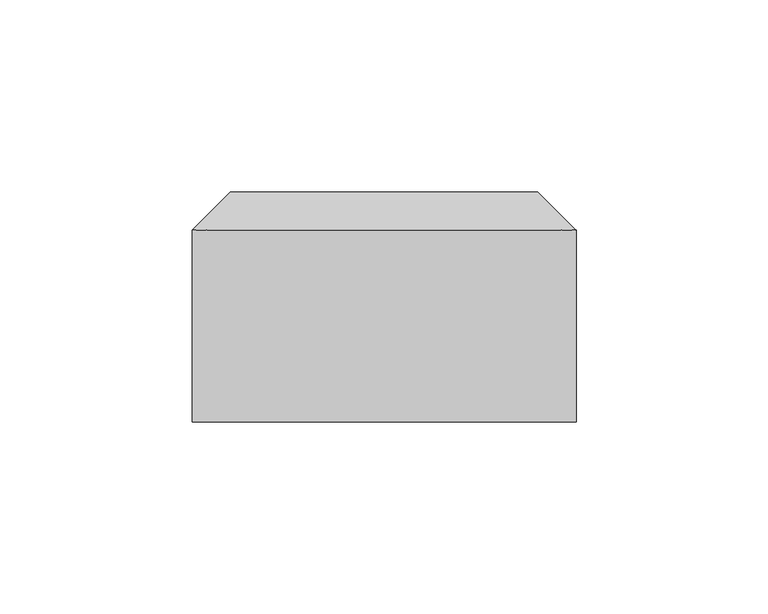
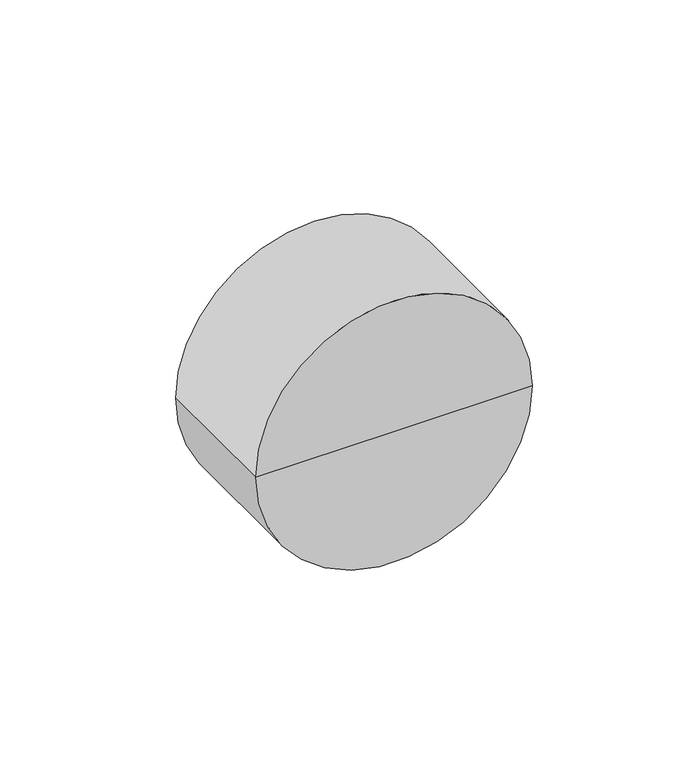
"""IFC4 building model written with IfcOpenShell, lengths in millimetres: alarm geometry, AI_Incendie_Alarme incendie : Diffuseur sonore."""

from ifc_helpers import new_model, si_unit, frame, origin, place, context, project, spatial, polyline, circle_curve, source, transform, mapped, element, save
from ifc_brep_helpers import plane_surface, cylinder_surface, revolved_surface, advanced_brep


def alarm_ff25f4bb(model_context):
    return source(origin(), model_context, "Body", "AdvancedBrep", [
        advanced_brep(
        [(0.0, 0.0, 0.0), (-50.0, 0.0, 0.0), (50.0, 0.0, 0.0), (40.0, 60.0, 0.0), (-40.0, 60.0, 0.0), (0.0, 60.0, 0.0), (50.0, 50.0, 0.0), (-50.0, 50.0, 0.0)],
        [
            (0, 1),
            (1, 2, circle_curve(frame((0.0, 0.0, 0.0), z_axis=(0.0, -1.0, 0.0), x_axis=(-1.0, 0.0, 0.0)), 50.0)),
            (2, 0),
            (2, 1, circle_curve(frame((0.0, 0.0, 0.0), z_axis=(0.0, -1.0, 0.0), x_axis=(-1.0, 0.0, 0.0)), 50.0)),
            (3, 4, circle_curve(frame((0.0, 60.0, 0.0), z_axis=(0.0, 1.0, 0.0), x_axis=(-1.0, 0.0, 0.0)), 40.0)),
            (4, 5),
            (5, 3),
            (4, 3, circle_curve(frame((0.0, 60.0, 0.0), z_axis=(0.0, 1.0, 0.0), x_axis=(-1.0, 0.0, 0.0)), 40.0)),
            (6, 7, circle_curve(frame((0.0, 50.0, 0.0), z_axis=(0.0, 1.0, 0.0), x_axis=(-1.0, 0.0, 0.0)), 50.0)),
            (7, 4),
            (3, 6),
            (7, 6, circle_curve(frame((0.0, 50.0, 0.0), z_axis=(0.0, 1.0, 0.0), x_axis=(-1.0, 0.0, 0.0)), 50.0)),
            (1, 7),
            (6, 2),
        ],
        [
            plane_surface(frame((0.0, 0.0, 0.0), z_axis=(0.0, -1.0, 0.0), x_axis=(-1.0, 0.0, 0.0))),
            plane_surface(frame((0.0, 60.0, 0.0), z_axis=(0.0, 1.0, 0.0), x_axis=(-1.0, 0.0, 0.0))),
            revolved_surface(polyline([(-40.0, 60.0, 0.0), (-50.0, 50.0, 0.0)]), (0.0, 1524.0, 0.0), (0.0, -1.0, 0.0)),
            cylinder_surface(frame((0.0, 1524.0, 0.0), z_axis=(0.0, -1.0, 0.0), x_axis=(-1.0, 0.0, 0.0)), 50.0),
        ],
        [
            (0, [[1, 2, 3]]),
            (0, [[-3, 4, -1]]),
            (1, [[5, 6, 7]]),
            (1, [[8, -7, -6]]),
            (2, [[9, 10, -5, 11]]),
            (2, [[12, -11, -8, -10]]),
            (3, [[-2, 13, -9, 14]]),
            (3, [[-4, -14, -12, -13]]),
        ],
    ),
    ])


if __name__ == "__main__":
    model = new_model("IFC4")
    model_context = context("Model", 3, world=origin())
    ifc_project = project(units=[si_unit("LENGTHUNIT", "METRE", prefix="MILLI")], contexts=[model_context])
    site = spatial("IfcSite", under=ifc_project)
    building = spatial("IfcBuilding", under=site)
    placement = place(None, origin())
    alarm_shape = alarm_ff25f4bb(model_context)
    element("IfcAlarm", 1, ObjectType="AI_Incendie_Alarme incendie : Diffuseur sonore", at=placement, inside=building, context=model_context, shape_type="MappedRepresentation", body=[
        mapped(alarm_shape, transform((0.0, 0.0, 0.0), x_axis=(1.0, 0.0, 0.0), y_axis=(0.0, 1.0, 0.0), z_axis=(0.0, 0.0, 1.0))),
    ])
    save(model, "model.ifc")
